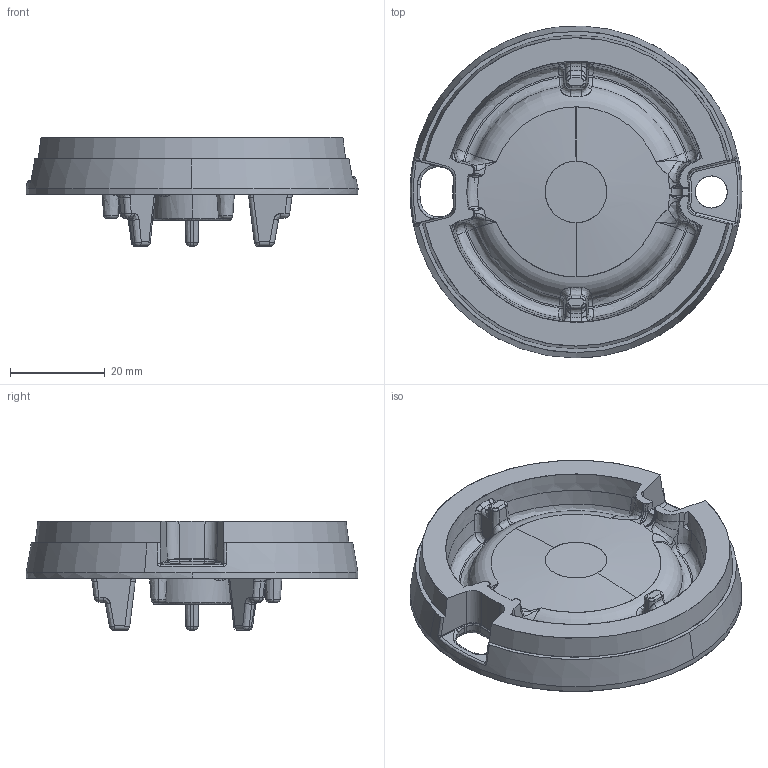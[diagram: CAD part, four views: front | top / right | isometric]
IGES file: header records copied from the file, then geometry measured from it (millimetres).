
Start section: --------------------------------------------------------------------- IGES file generated by CADlook_v12.0.  Visit http://www.cadlook.com for more information on CADlook translators and viewers. ---------------------------------------------------------------------
Global section: file name: X:\progetto-gas\File_clienti\Europa\Set-base_SerieI\Semirapido\cor-sr-01-a9.igs; native system: Cimatron E 9.0; preprocessor: CADlook_v12.0; author: aquintaba; organization: None; date: 20100722.084521; units: millimetre
Bounding box: 69.98 x 69.98 x 23 mm (x, y, z)
Surface area: 14875.2 mm2 (no closed solid volume)
Topology: 0 solids, 0 shells, 1754 faces, 11256 edges, 11948 vertices
Faces by surface type: bspline 974, revolution 780
